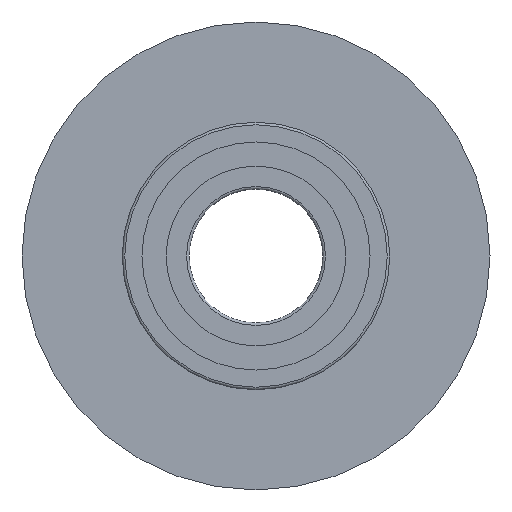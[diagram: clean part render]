
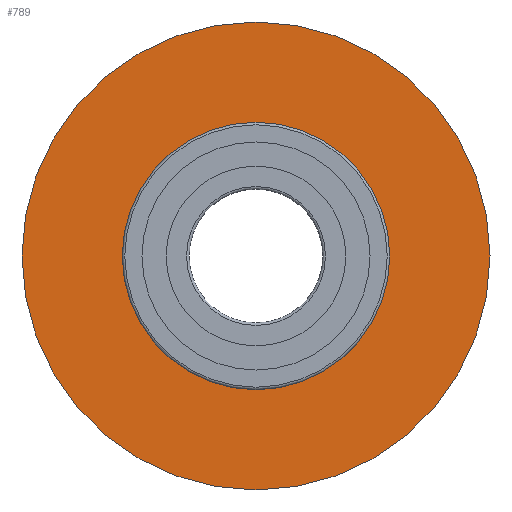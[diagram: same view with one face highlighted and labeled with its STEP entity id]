
A CAD part, left-side view. The second image highlights one B-rep face of the part: STEP entity #789.
In plain terms, the highlighted planar face has unit normal (-1, 0, 0).
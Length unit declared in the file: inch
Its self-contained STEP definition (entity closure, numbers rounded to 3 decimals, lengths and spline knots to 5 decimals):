
#762=CARTESIAN_POINT('',(112.91139,126.47152,0.));
#763=VERTEX_POINT('',#762);
#764=CARTESIAN_POINT('',(112.91139,112.47152,0.));
#765=DIRECTION('',(1.,0.,0.));
#766=DIRECTION('',(0.,1.,0.));
#767=AXIS2_PLACEMENT_3D('',#764,#765,#766);
#768=CIRCLE('',#767,14.);
#769=EDGE_CURVE('',#763,#763,#768,.T.);
#770=ORIENTED_EDGE('',*,*,#769,.F.);
#771=EDGE_LOOP('',(#770));
#772=FACE_OUTER_BOUND('',#771,.T.);
#773=CARTESIAN_POINT('',(112.91139,120.47152,0.));
#774=VERTEX_POINT('',#773);
#775=CARTESIAN_POINT('',(112.91139,112.47152,0.));
#776=DIRECTION('',(1.,0.,0.));
#777=DIRECTION('',(0.,1.,0.));
#778=AXIS2_PLACEMENT_3D('',#775,#776,#777);
#779=CIRCLE('',#778,8.);
#780=EDGE_CURVE('',#774,#774,#779,.T.);
#781=ORIENTED_EDGE('',*,*,#780,.T.);
#782=EDGE_LOOP('',(#781));
#783=FACE_BOUND('',#782,.T.);
#784=CARTESIAN_POINT('',(112.91139,123.47152,0.));
#785=DIRECTION('',(-1.,0.,0.));
#786=DIRECTION('',(0.,-1.,0.));
#787=AXIS2_PLACEMENT_3D('',#784,#785,#786);
#788=PLANE('',#787);
#789=ADVANCED_FACE('',(#772,#783),#788,.T.);
